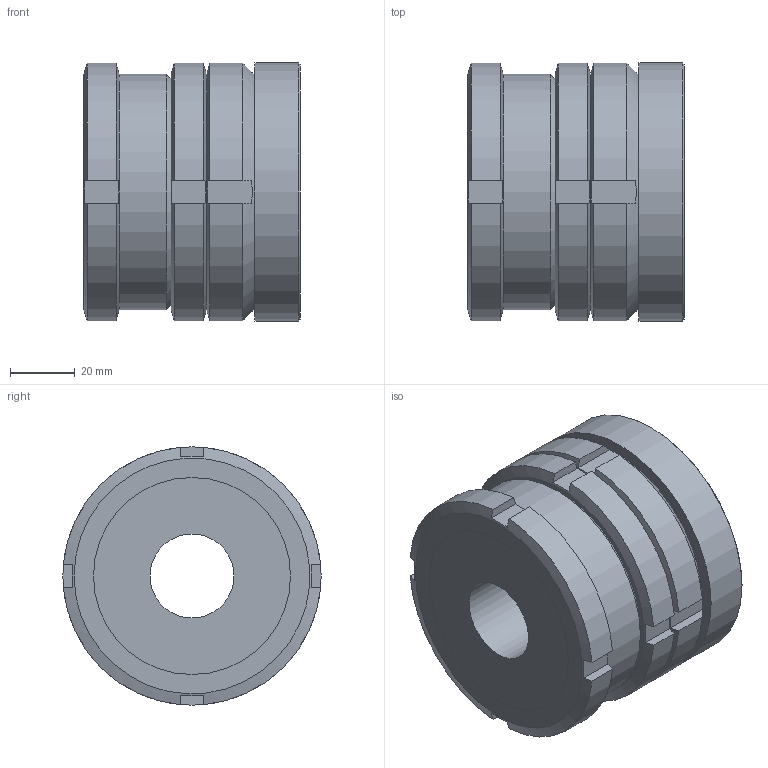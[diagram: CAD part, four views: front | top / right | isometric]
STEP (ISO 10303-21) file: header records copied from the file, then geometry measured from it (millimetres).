
FILE_DESCRIPTION( ( 'STEP AP203' ), '1' );
FILE_NAME( 'C:/Temp/Ganter_Step_05_03_2020/data/3_2/gn350_5/gn350_5_st/Levelling set GN 350.5-80-26-67-ST (0-0).stp', '2020-03-13T05:28:40', ( 'License CC BY-ND 4.0' ), ( 'CADENAS' ), ' ', 'PARTsolutions', ' ' );
FILE_SCHEMA( ( 'CONFIG_CONTROL_DESIGN' ) );
Length unit declared in the file: millimetre
Products named in the file (5): Levelling set GN 350.5-80-26-67-ST (0-0); _Levelling set GN 350.5-80-26-67-ST-G; _Levelling set GN 350.5-80-26-67-ST-K; _Levelling set GN 350.5-80-26-67-ST-P(0); _Levelling set GN 350.5-80-26-67-ST-KM
Assembly tree (4 placements, depth 2):
  Levelling set GN 350.5-80-26-67-ST (0-0)
    _Levelling set GN 350.5-80-26-67-ST-G
    _Levelling set GN 350.5-80-26-67-ST-K
    _Levelling set GN 350.5-80-26-67-ST-P(0)
    _Levelling set GN 350.5-80-26-67-ST-KM
Bounding box: 67 x 80 x 80 mm (x, y, z)
Volume: 274196.3 mm3; surface area: 62502.5 mm2
Topology: 4 solids, 4 shells, 85 faces, 211 edges, 140 vertices
Faces by surface type: plane 50, cylinder 24, cone 9, sphere 2
Full cylindrical faces by diameter (mm): 26 x1, 48 x1, 53.529 x1, 54.5 x1, 57.835 x1, 58.917 x1, 60 x2, 61 x2, 73 x1, 80 x1
Entity records: 2696 total; most frequent: CARTESIAN_POINT 698, DIRECTION 368, ORIENTED_EDGE 356, EDGE_CURVE 178, AXIS2_PLACEMENT_3D 160, VERTEX_POINT 130, EDGE_LOOP 122, FACE_OUTER_BOUND 99
